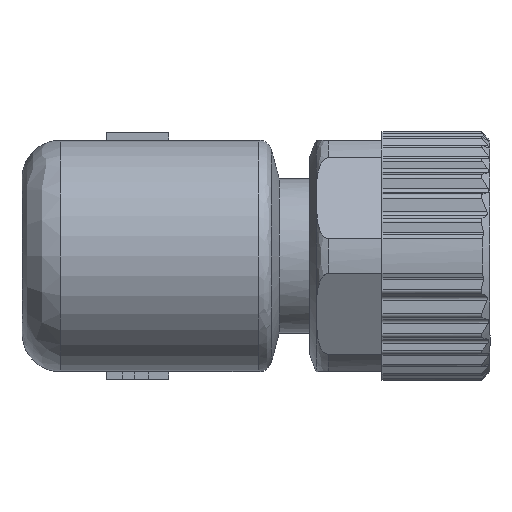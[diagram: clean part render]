
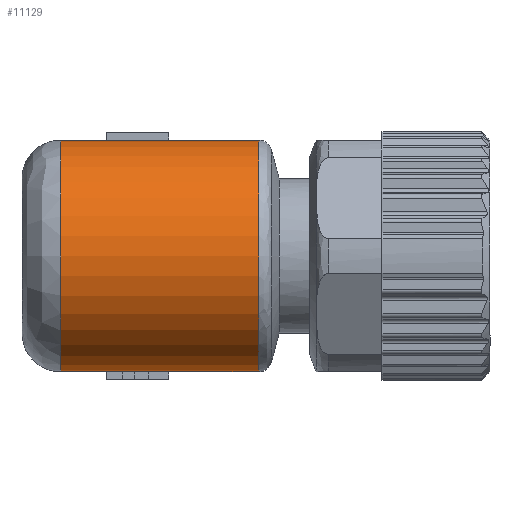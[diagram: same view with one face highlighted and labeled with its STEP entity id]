
A CAD part, left-side view. The second image highlights one B-rep face of the part: STEP entity #11129.
In plain terms, the highlighted cylindrical face has radius 4.5 mm (diameter 9 mm), a partial arc.
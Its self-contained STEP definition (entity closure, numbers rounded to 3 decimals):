
#941 = CARTESIAN_POINT ( 'NONE',  ( 4.5, 0., 4.5 ) ) ;
#1100 = VERTEX_POINT ( 'NONE', #10296 ) ;
#1246 = ORIENTED_EDGE ( 'NONE', *, *, #14796, .T. ) ;
#1823 = EDGE_CURVE ( 'NONE', #4152, #16350, #10060, .T. ) ;
#1851 = AXIS2_PLACEMENT_3D ( 'NONE', #12166, #14798, #12345 ) ;
#2257 = DIRECTION ( 'NONE',  ( 0., -1., 0. ) ) ;
#2819 = CARTESIAN_POINT ( 'NONE',  ( 4.5, -4.407, 4.5 ) ) ;
#2888 = VECTOR ( 'NONE', #2257, 1000. ) ;
#3048 = CARTESIAN_POINT ( 'NONE',  ( 4.5, -4.714, 0. ) ) ;
#3337 = AXIS2_PLACEMENT_3D ( 'NONE', #3048, #13351, #9530 ) ;
#3420 = CYLINDRICAL_SURFACE ( 'NONE', #1851, 4.5 ) ;
#3450 = CARTESIAN_POINT ( 'NONE',  ( 4.5, -4.714, 4.5 ) ) ;
#3644 = EDGE_CURVE ( 'NONE', #8404, #4152, #11255, .T. ) ;
#4152 = VERTEX_POINT ( 'NONE', #11958 ) ;
#4625 = ORIENTED_EDGE ( 'NONE', *, *, #16129, .F. ) ;
#4964 = VERTEX_POINT ( 'NONE', #2819 ) ;
#5683 = VERTEX_POINT ( 'NONE', #14561 ) ;
#5760 = FACE_OUTER_BOUND ( 'NONE', #12123, .T. ) ;
#5886 = VECTOR ( 'NONE', #12919, 1000. ) ;
#6276 = ORIENTED_EDGE ( 'NONE', *, *, #13920, .T. ) ;
#7526 = LINE ( 'NONE', #11390, #12289 ) ;
#8287 = VECTOR ( 'NONE', #11963, 1000. ) ;
#8404 = VERTEX_POINT ( 'NONE', #9006 ) ;
#8619 = CIRCLE ( 'NONE', #10760, 4.5 ) ;
#9006 = CARTESIAN_POINT ( 'NONE',  ( 4.5, -4.407, -4.5 ) ) ;
#9530 = DIRECTION ( 'NONE',  ( 0., 0., -1. ) ) ;
#9614 = LINE ( 'NONE', #11032, #8287 ) ;
#10060 = CIRCLE ( 'NONE', #3337, 4.5 ) ;
#10296 = CARTESIAN_POINT ( 'NONE',  ( 4.5, 3., -4.5 ) ) ;
#10553 = CARTESIAN_POINT ( 'NONE',  ( 4.5, 3., 0. ) ) ;
#10760 = AXIS2_PLACEMENT_3D ( 'NONE', #10553, #10931, #15688 ) ;
#10931 = DIRECTION ( 'NONE',  ( 0., -1., 0. ) ) ;
#11032 = CARTESIAN_POINT ( 'NONE',  ( 4.5, 0., -4.5 ) ) ;
#11129 = ADVANCED_FACE ( 'NONE', ( #5760 ), #3420, .T. ) ;
#11255 = LINE ( 'NONE', #15224, #2888 ) ;
#11390 = CARTESIAN_POINT ( 'NONE',  ( 4.5, 4.5, 4.5 ) ) ;
#11558 = DIRECTION ( 'NONE',  ( 0., -1., 0. ) ) ;
#11958 = CARTESIAN_POINT ( 'NONE',  ( 4.5, -4.714, -4.5 ) ) ;
#11963 = DIRECTION ( 'NONE',  ( 0., -1., 0. ) ) ;
#12037 = ORIENTED_EDGE ( 'NONE', *, *, #14925, .F. ) ;
#12123 = EDGE_LOOP ( 'NONE', ( #4625, #12037, #6276, #1246, #16369, #13062 ) ) ;
#12166 = CARTESIAN_POINT ( 'NONE',  ( 4.5, 4.5, 0. ) ) ;
#12289 = VECTOR ( 'NONE', #11558, 1000. ) ;
#12345 = DIRECTION ( 'NONE',  ( 0., 0., -1. ) ) ;
#12470 = LINE ( 'NONE', #941, #5886 ) ;
#12919 = DIRECTION ( 'NONE',  ( 0., -1., 0. ) ) ;
#13062 = ORIENTED_EDGE ( 'NONE', *, *, #1823, .T. ) ;
#13351 = DIRECTION ( 'NONE',  ( 0., 1., 0. ) ) ;
#13920 = EDGE_CURVE ( 'NONE', #5683, #1100, #8619, .T. ) ;
#14561 = CARTESIAN_POINT ( 'NONE',  ( 4.5, 3., 4.5 ) ) ;
#14796 = EDGE_CURVE ( 'NONE', #1100, #8404, #9614, .T. ) ;
#14798 = DIRECTION ( 'NONE',  ( 0., -1., 0. ) ) ;
#14925 = EDGE_CURVE ( 'NONE', #5683, #4964, #12470, .T. ) ;
#15224 = CARTESIAN_POINT ( 'NONE',  ( 4.5, 4.5, -4.5 ) ) ;
#15688 = DIRECTION ( 'NONE',  ( 0., 0., -1. ) ) ;
#16129 = EDGE_CURVE ( 'NONE', #4964, #16350, #7526, .T. ) ;
#16350 = VERTEX_POINT ( 'NONE', #3450 ) ;
#16369 = ORIENTED_EDGE ( 'NONE', *, *, #3644, .T. ) ;
